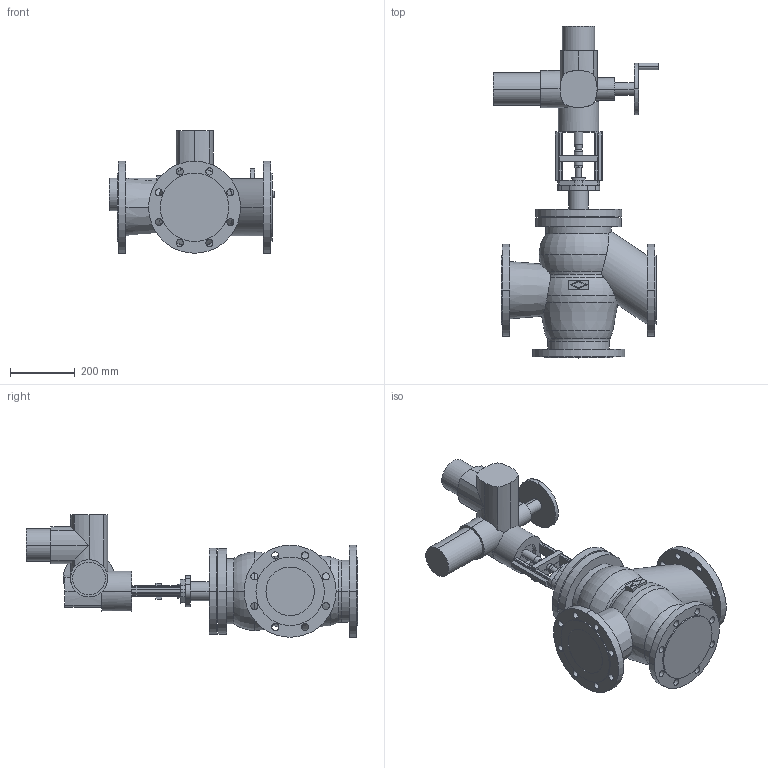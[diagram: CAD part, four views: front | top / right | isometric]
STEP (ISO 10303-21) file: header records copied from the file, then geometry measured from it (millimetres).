
FILE_DESCRIPTION(('OneSpaceDesigner STEP Export'),'2;1');
FILE_NAME('c000003158.stp','2007-01-26T12:34:48',(''),(''),'OneSpace Designer STEP processor for AP214 (Solid Model)','OneSpace Designer 14.00B 27-May-2006 (C) CoCreate Software GmbH','');
FILE_SCHEMA(('AUTOMOTIVE_DESIGN { 1 0 10303 214 1 1 1 1 }'));
Length unit declared in the file: millimetre
Products named in the file (2): 1; 2
Bounding box: 514 x 1028 x 379.5 mm (x, y, z)
Volume: 37139521.5 mm3; surface area: 1407594.8 mm2
Topology: 2 solids, 2 shells, 322 faces, 820 edges, 522 vertices
Faces by surface type: cylinder 162, plane 136, torus 16, cone 8
Entity records: 9370 total; most frequent: CARTESIAN_POINT 2102, ORIENTED_EDGE 1640, DIRECTION 1336, EDGE_CURVE 820, VERTEX_POINT 522, AXIS2_PLACEMENT_3D 468, EDGE_LOOP 402, VECTOR 400
